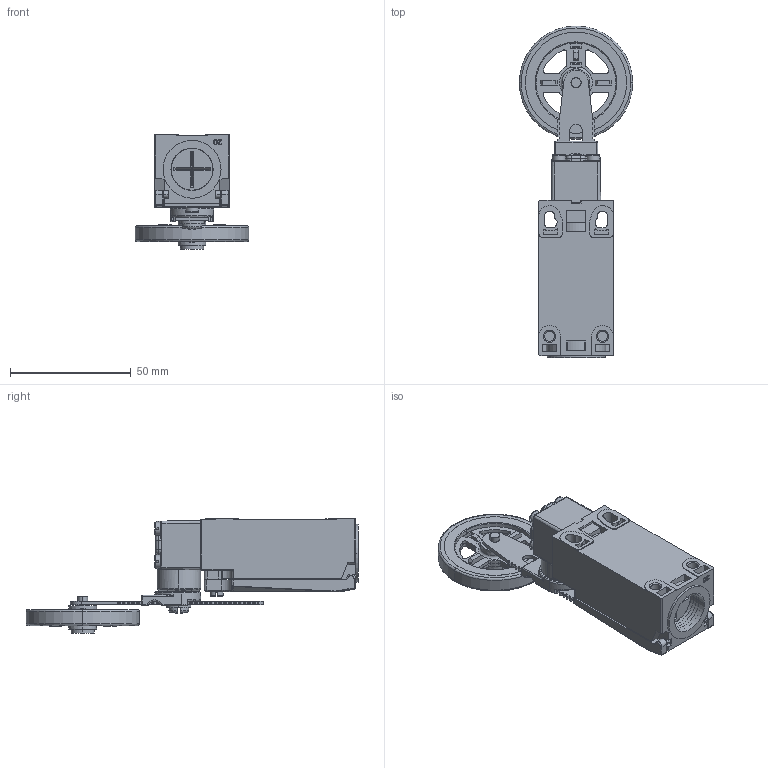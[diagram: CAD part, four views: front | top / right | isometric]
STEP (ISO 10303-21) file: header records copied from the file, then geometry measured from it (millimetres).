
FILE_DESCRIPTION(/* description */ (''),/* implementation_level */ '2;1');
FILE_NAME(/* name */ 'ALS3-P...C6.stp',/* time_stamp */ '2022-04-21T15:39:55+08:00',/* author */ (''),/* organization */ (''),/* preprocessor_version */ 'ST-DEVELOPER v16.7',/* originating_system */ 'SIEMENS PLM Software NX 12.0',/* authorisation */ '');
FILE_SCHEMA (('AUTOMOTIVE_DESIGN { 1 0 10303 214 3 1 1 1 }'));
Length unit declared in the file: millimetre
Products named in the file (16): 412H轮子铆钉; 412H橡胶轮; 412H轮子骨架; 412G可调推杆; M5X13螺钉; M3X22螺钉; 4122摆杆套; 4120头部基座; M3X9; 20210810COVER_BODY; 基座; 尾塞; D4N-4122H-LUIZIZUJIAN; 412H轮子组件; D4N-4122H头部组件; ALS3-P...C6_stp
Assembly tree (19 placements, depth 5):
  ALS3-P...C6_stp
    尾塞
    基座
    20210810COVER_BODY
    M3X9
    D4N-4122H头部组件
      4120头部基座
      4122摆杆套
      M3X22螺钉  x4
      412H轮子组件
        412G可调推杆
        D4N-4122H-LUIZIZUJIAN
          412H轮子骨架  x2
          412H橡胶轮
          412H轮子铆钉
      M5X13螺钉
Bounding box: 46.96 x 137.5 x 47.45 mm (x, y, z)
Volume: 38413.8 mm3; surface area: 43662.3 mm2
Topology: 16 solids, 16 shells, 2316 faces, 6540 edges, 4298 vertices
Faces by surface type: plane 1230, cylinder 759, cone 129, torus 100, bspline 60, sphere 38
Entity records: 74675 total; most frequent: CARTESIAN_POINT 19244, ORIENTED_EDGE 11838, DIRECTION 11383, EDGE_CURVE 5919, AXIS2_PLACEMENT_3D 3940, VERTEX_POINT 3916, LINE 3503, VECTOR 3503
